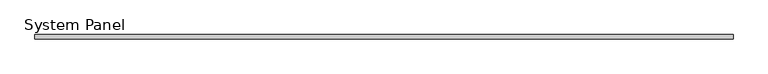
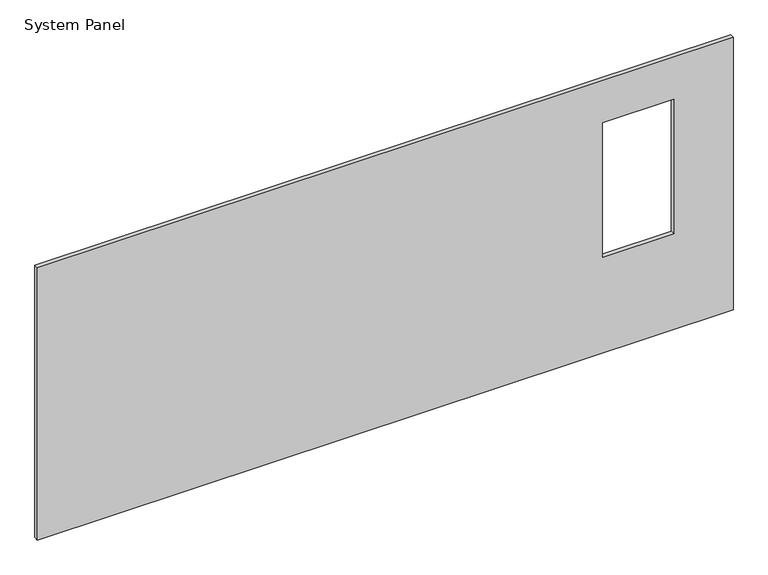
"""IFC4 building model written with IfcOpenShell, lengths in millimetres: plate geometry."""

from ifc_helpers import new_model, si_unit, frame, origin, place, context, project, spatial, polyline, outline, extrude, source, transform, mapped, element, save


def system_panel_914d0df6(model_context):
    return source(origin(), model_context, "Body", "SweptSolid", [
        extrude(outline(polyline([(0.0, -2977.4802782), (0.0, 2977.4802782), (2463.8, 2977.4802782), (2463.8, -2977.4802782), (0.0, -2977.4802782)]), holes=[polyline([(863.6, 2470.8197218), (863.6, 1861.2197218), (2082.8, 1861.2197218), (2082.8, 2470.8197218), (863.6, 2470.8197218)])]), frame((0.0, -19.05, 0.0), z_axis=(0.0, 1.0, 0.0), x_axis=(0.0, 0.0, 1.0)), (0.0, 0.0, 1.0), 38.1),
    ])


if __name__ == "__main__":
    model = new_model("IFC4")
    model_context = context("Model", 3, world=origin())
    ifc_project = project(units=[si_unit("LENGTHUNIT", "METRE", prefix="MILLI")], contexts=[model_context])
    site = spatial("IfcSite", under=ifc_project)
    building = spatial("IfcBuilding", under=site)
    placement = place(None, origin())
    system_panel_shape = system_panel_914d0df6(model_context)
    element("IfcPlate", 1, ObjectType="System Panel : 1/2\" Plywood & 1\" Rigid Ins.", at=placement, inside=building, context=model_context, shape_type="MappedRepresentation", body=[
        mapped(system_panel_shape, transform((0.0, 0.0, 0.0), x_axis=(1.0, 0.0, 0.0), y_axis=(0.0, 1.0, 0.0), z_axis=(0.0, 0.0, 1.0))),
    ])
    save(model, "model.ifc")
